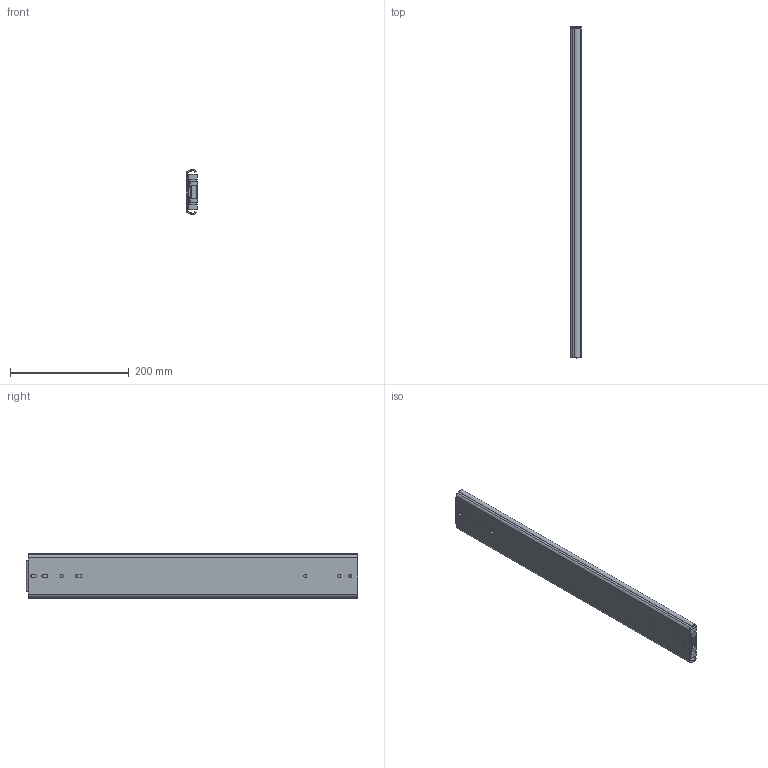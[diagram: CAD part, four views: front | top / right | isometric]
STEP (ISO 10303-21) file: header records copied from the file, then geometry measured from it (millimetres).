
FILE_DESCRIPTION(/* description */ ('Unknown'),/* implementation_level */ '2;1');
FILE_NAME(/* name */ '76J01-22 close',/* time_stamp */ '2024-07-26T15:40:28+08:00',/* author */ ('Unknown'),/* organization */ ('Unknown'),/* preprocessor_version */ 'ST-DEVELOPER v18.104',/* originating_system */ 'Solid Edge',/* authorisation */ 'Unknown');
FILE_SCHEMA (('AUTOMOTIVE_DESIGN {1 0 10303 214 3 1 1}'));
Length unit declared in the file: millimetre
Products named in the file (4): 76J01-22 close; 76J01 22 inch 內; 76J01 22 吋
Assembly tree (3 placements, depth 2):
  76J01-22 close
    76J01 22 inch 內
    76J01 22 吋
    76J01 22 吋
Bounding box: 19.3 x 558.8 x 76.76 mm (x, y, z)
Volume: 435084.8 mm3; surface area: 271672.1 mm2
Topology: 3 solids, 3 shells, 188 faces, 575 edges, 387 vertices
Faces by surface type: plane 104, cylinder 84
Full cylindrical faces by diameter (mm): 5.2 x9, 7.1 x2
Entity records: 6871 total; most frequent: CARTESIAN_POINT 1124, ORIENTED_EDGE 1106, DIRECTION 1105, EDGE_CURVE 553, LINE 383, VECTOR 383, VERTEX_POINT 376, AXIS2_PLACEMENT_3D 361
